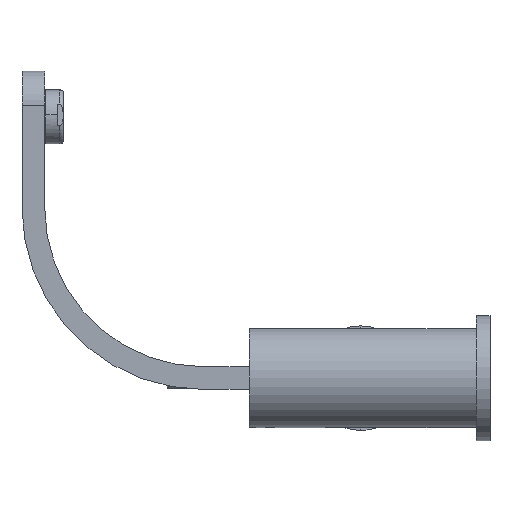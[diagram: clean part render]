
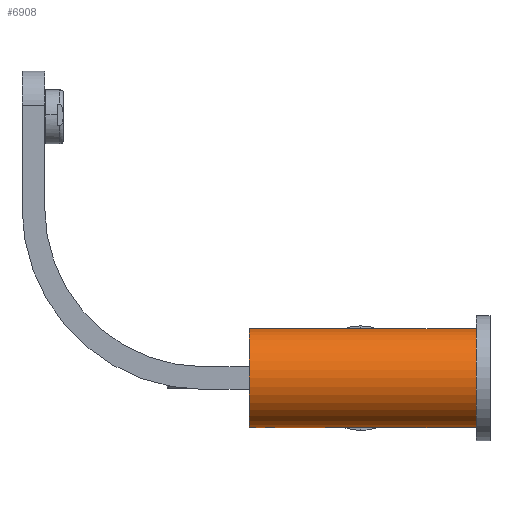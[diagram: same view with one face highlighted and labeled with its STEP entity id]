
A CAD part, left-side view. The second image highlights one B-rep face of the part: STEP entity #6908.
In plain terms, the highlighted cylindrical face has radius 21.75 mm (diameter 43.5 mm), a partial arc.
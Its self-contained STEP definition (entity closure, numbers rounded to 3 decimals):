
#453 = ORIENTED_EDGE ( 'NONE', *, *, #79956, .T. ) ;
#503 = CARTESIAN_POINT ( 'NONE',  ( -0.261, 92.741, -21.749 ) ) ;
#1001 = CARTESIAN_POINT ( 'NONE',  ( -1.929, 90.294, -21.664 ) ) ;
#1577 = ORIENTED_EDGE ( 'NONE', *, *, #3688, .T. ) ;
#3688 = EDGE_CURVE ( 'NONE', #114342, #127922, #15835, .T. ) ;
#4341 = AXIS2_PLACEMENT_3D ( 'NONE', #26986, #105157, #38218 ) ;
#6908 = ADVANCED_FACE ( 'NONE', ( #82486 ), #138432, .T. ) ;
#8773 = DIRECTION ( 'NONE',  ( 0., -1., 0. ) ) ;
#8871 = ORIENTED_EDGE ( 'NONE', *, *, #144319, .T. ) ;
#10212 = DIRECTION ( 'NONE',  ( 0., 0., 1. ) ) ;
#11817 = CARTESIAN_POINT ( 'NONE',  ( -0.643, 92.653, -21.741 ) ) ;
#12275 = CARTESIAN_POINT ( 'NONE',  ( -1.741, 89.816, -21.68 ) ) ;
#13535 = VECTOR ( 'NONE', #142084, 1000. ) ;
#13799 = CARTESIAN_POINT ( 'NONE',  ( 0., 92.753, -21.75 ) ) ;
#15835 = LINE ( 'NONE', #45291, #68283 ) ;
#18306 = VECTOR ( 'NONE', #8773, 1000. ) ;
#23066 = CARTESIAN_POINT ( 'NONE',  ( -0.998, 92.496, -21.727 ) ) ;
#23561 = CARTESIAN_POINT ( 'NONE',  ( -1.317, 89.329, -21.71 ) ) ;
#26986 = CARTESIAN_POINT ( 'NONE',  ( 0., 100., 0. ) ) ;
#29821 = EDGE_LOOP ( 'NONE', ( #38023, #73338, #104750, #453, #1577, #8871, #144691, #94451 ) ) ;
#29846 = CARTESIAN_POINT ( 'NONE',  ( 0., 0., 21.75 ) ) ;
#32221 = EDGE_CURVE ( 'NONE', #41863, #36953, #69030, .T. ) ;
#32512 = CARTESIAN_POINT ( 'NONE',  ( 0., 51., 21.75 ) ) ;
#34053 = VERTEX_POINT ( 'NONE', #29846 ) ;
#34319 = CARTESIAN_POINT ( 'NONE',  ( -1.317, 92.271, -21.71 ) ) ;
#34800 = CARTESIAN_POINT ( 'NONE',  ( -1., 89.106, -21.727 ) ) ;
#34803 = VERTEX_POINT ( 'NONE', #13799 ) ;
#36921 = CARTESIAN_POINT ( 'NONE',  ( 0., 100., 21.75 ) ) ;
#36953 = VERTEX_POINT ( 'NONE', #32512 ) ;
#38023 = ORIENTED_EDGE ( 'NONE', *, *, #32221, .F. ) ;
#38218 = DIRECTION ( 'NONE',  ( 0., 0., 1. ) ) ;
#39340 = VECTOR ( 'NONE', #115087, 1000. ) ;
#41863 = VERTEX_POINT ( 'NONE', #70481 ) ;
#42541 = CARTESIAN_POINT ( 'NONE',  ( 0., 100., 21.75 ) ) ;
#44382 = VERTEX_POINT ( 'NONE', #138142 ) ;
#45291 = CARTESIAN_POINT ( 'NONE',  ( 0., 100., -21.75 ) ) ;
#45572 = CARTESIAN_POINT ( 'NONE',  ( -1.741, 91.784, -21.68 ) ) ;
#46060 = CARTESIAN_POINT ( 'NONE',  ( -0.523, 88.898, -21.745 ) ) ;
#50654 = VERTEX_POINT ( 'NONE', #92105 ) ;
#56486 = DIRECTION ( 'NONE',  ( 0., -1., 0. ) ) ;
#56809 = CARTESIAN_POINT ( 'NONE',  ( -1.993, 91.056, -21.659 ) ) ;
#57304 = CARTESIAN_POINT ( 'NONE',  ( 0., 88.847, -21.75 ) ) ;
#63009 = CARTESIAN_POINT ( 'NONE',  ( 0., 88.847, -21.75 ) ) ;
#63211 = AXIS2_PLACEMENT_3D ( 'NONE', #118097, #63375, #107378 ) ;
#63375 = DIRECTION ( 'NONE',  ( 0., -1., 0. ) ) ;
#68013 = EDGE_CURVE ( 'NONE', #50654, #34803, #142217, .T. ) ;
#68015 = CARTESIAN_POINT ( 'NONE',  ( -1.98, 90.544, -21.66 ) ) ;
#68283 = VECTOR ( 'NONE', #56486, 1000. ) ;
#69030 = LINE ( 'NONE', #36921, #39340 ) ;
#70412 = AXIS2_PLACEMENT_3D ( 'NONE', #144161, #77206, #10212 ) ;
#70481 = CARTESIAN_POINT ( 'NONE',  ( 0., 100., 21.75 ) ) ;
#73338 = ORIENTED_EDGE ( 'NONE', *, *, #120789, .F. ) ;
#77206 = DIRECTION ( 'NONE',  ( 0., 1., 0. ) ) ;
#78793 = CARTESIAN_POINT ( 'NONE',  ( -0.516, 92.691, -21.744 ) ) ;
#79286 = CARTESIAN_POINT ( 'NONE',  ( -1.892, 90.172, -21.668 ) ) ;
#79956 = EDGE_CURVE ( 'NONE', #34803, #114342, #106153, .T. ) ;
#80332 = EDGE_CURVE ( 'NONE', #44382, #34053, #136287, .T. ) ;
#82486 = FACE_OUTER_BOUND ( 'NONE', #29821, .T. ) ;
#83973 = CARTESIAN_POINT ( 'NONE',  ( 0., 51., -21.75 ) ) ;
#90076 = CARTESIAN_POINT ( 'NONE',  ( -0.883, 92.556, -21.732 ) ) ;
#90574 = CARTESIAN_POINT ( 'NONE',  ( -1.594, 89.601, -21.692 ) ) ;
#92105 = CARTESIAN_POINT ( 'NONE',  ( 0., 100., -21.75 ) ) ;
#94451 = ORIENTED_EDGE ( 'NONE', *, *, #111672, .F. ) ;
#101299 = CARTESIAN_POINT ( 'NONE',  ( -1.216, 92.353, -21.716 ) ) ;
#101763 = CARTESIAN_POINT ( 'NONE',  ( -1.216, 89.248, -21.716 ) ) ;
#102754 = LINE ( 'NONE', #130799, #13535 ) ;
#104716 = CIRCLE ( 'NONE', #4341, 21.75 ) ;
#104750 = ORIENTED_EDGE ( 'NONE', *, *, #68013, .T. ) ;
#105157 = DIRECTION ( 'NONE',  ( 0., 1., 0. ) ) ;
#106153 = B_SPLINE_CURVE_WITH_KNOTS ( 'NONE', 3,
 ( #123228, #134463, #503, #78793, #11817, #90076, #23066, #101299, #34319, #112469, #45572, #123712, #56809, #134941, #68015, #1001, #79286, #12275, #90574, #23561, #101763, #34800, #112956, #46060, #124183, #57304 ),
 .UNSPECIFIED., .F., .F.,
 ( 4, 2, 2, 2, 2, 2, 2, 2, 2, 2, 2, 2, 4 ),
 ( 0., 0.031, 0.062, 0.094, 0.125, 0.187, 0.25, 0.281, 0.312, 0.375, 0.406, 0.437, 0.5 ),
 .UNSPECIFIED. ) ;
#107378 = DIRECTION ( 'NONE',  ( 0., 0., -1. ) ) ;
#111672 = EDGE_CURVE ( 'NONE', #36953, #34053, #130173, .T. ) ;
#112469 = CARTESIAN_POINT ( 'NONE',  ( -1.593, 92.001, -21.692 ) ) ;
#112956 = CARTESIAN_POINT ( 'NONE',  ( -0.883, 89.044, -21.732 ) ) ;
#114342 = VERTEX_POINT ( 'NONE', #63009 ) ;
#115087 = DIRECTION ( 'NONE',  ( 0., -1., 0. ) ) ;
#115898 = VECTOR ( 'NONE', #131072, 1000. ) ;
#118097 = CARTESIAN_POINT ( 'NONE',  ( 0., 100., 0. ) ) ;
#119827 = CARTESIAN_POINT ( 'NONE',  ( 0., 100., -21.75 ) ) ;
#120789 = EDGE_CURVE ( 'NONE', #50654, #41863, #104716, .T. ) ;
#123228 = CARTESIAN_POINT ( 'NONE',  ( 0., 92.753, -21.75 ) ) ;
#123712 = CARTESIAN_POINT ( 'NONE',  ( -1.94, 91.313, -21.663 ) ) ;
#124183 = CARTESIAN_POINT ( 'NONE',  ( -0.262, 88.847, -21.75 ) ) ;
#127922 = VERTEX_POINT ( 'NONE', #83973 ) ;
#130173 = LINE ( 'NONE', #42541, #18306 ) ;
#130799 = CARTESIAN_POINT ( 'NONE',  ( 0., 100., -21.75 ) ) ;
#131072 = DIRECTION ( 'NONE',  ( 0., -1., 0. ) ) ;
#134463 = CARTESIAN_POINT ( 'NONE',  ( -0.131, 92.753, -21.75 ) ) ;
#134941 = CARTESIAN_POINT ( 'NONE',  ( -1.993, 90.673, -21.659 ) ) ;
#136287 = CIRCLE ( 'NONE', #70412, 21.75 ) ;
#138142 = CARTESIAN_POINT ( 'NONE',  ( 0., 0., -21.75 ) ) ;
#138432 = CYLINDRICAL_SURFACE ( 'NONE', #63211, 21.75 ) ;
#142084 = DIRECTION ( 'NONE',  ( 0., -1., 0. ) ) ;
#142217 = LINE ( 'NONE', #119827, #115898 ) ;
#144161 = CARTESIAN_POINT ( 'NONE',  ( 0., 0., 0. ) ) ;
#144319 = EDGE_CURVE ( 'NONE', #127922, #44382, #102754, .T. ) ;
#144691 = ORIENTED_EDGE ( 'NONE', *, *, #80332, .T. ) ;
